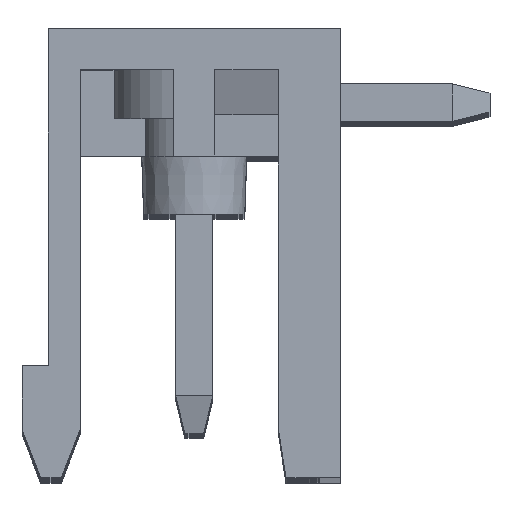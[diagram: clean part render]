
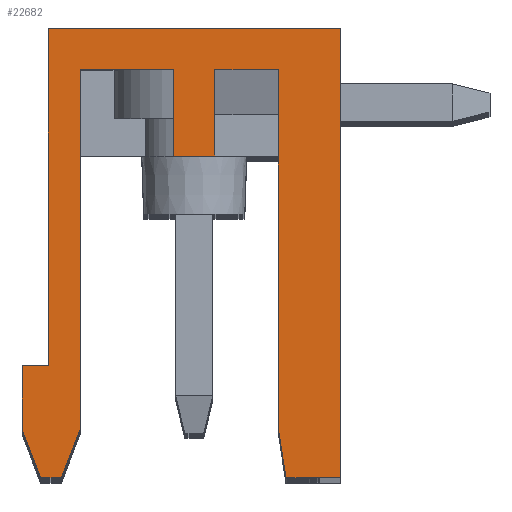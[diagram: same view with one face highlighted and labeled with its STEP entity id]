
A CAD part, top view. The second image highlights one B-rep face of the part: STEP entity #22682.
In plain terms, the highlighted planar face has unit normal (0, 0, 1).
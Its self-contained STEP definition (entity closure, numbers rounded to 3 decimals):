
#77 = LINE ( 'NONE', #12395, #8307 ) ;
#148 = EDGE_CURVE ( 'NONE', #35608, #31139, #856, .T. ) ;
#775 = VERTEX_POINT ( 'NONE', #6772 ) ;
#856 = LINE ( 'NONE', #26508, #36444 ) ;
#1350 = VECTOR ( 'NONE', #27389, 1000. ) ;
#1577 = LINE ( 'NONE', #13510, #23711 ) ;
#1651 = FACE_OUTER_BOUND ( 'NONE', #37159, .T. ) ;
#2034 = LINE ( 'NONE', #26680, #26311 ) ;
#2119 = EDGE_CURVE ( 'NONE', #24756, #9137, #14697, .T. ) ;
#2282 = CARTESIAN_POINT ( 'NONE',  ( -0.55, 8.6, 81.28 ) ) ;
#2451 = DIRECTION ( 'NONE',  ( 0., 0., 1. ) ) ;
#2737 = LINE ( 'NONE', #15059, #1350 ) ;
#2877 = EDGE_CURVE ( 'NONE', #12802, #9137, #2034, .T. ) ;
#3184 = EDGE_CURVE ( 'NONE', #23171, #775, #1577, .T. ) ;
#3368 = DIRECTION ( 'NONE',  ( 0., 1., 0. ) ) ;
#3726 = EDGE_CURVE ( 'NONE', #18675, #24756, #39411, .T. ) ;
#3988 = ORIENTED_EDGE ( 'NONE', *, *, #3726, .F. ) ;
#4072 = CARTESIAN_POINT ( 'NONE',  ( -0.55, 10.9, 81.28 ) ) ;
#4186 = LINE ( 'NONE', #16500, #13880 ) ;
#4317 = VECTOR ( 'NONE', #20206, 1000. ) ;
#4509 = ORIENTED_EDGE ( 'NONE', *, *, #38230, .T. ) ;
#4614 = LINE ( 'NONE', #25837, #26453 ) ;
#4673 = EDGE_CURVE ( 'NONE', #20531, #14646, #77, .T. ) ;
#4804 = DIRECTION ( 'NONE',  ( -0.359, -0.933, 0. ) ) ;
#5007 = VERTEX_POINT ( 'NONE', #15377 ) ;
#5052 = VECTOR ( 'NONE', #17960, 1000. ) ;
#5279 = PLANE ( 'NONE',  #7719 ) ;
#5416 = EDGE_CURVE ( 'NONE', #15812, #5007, #37127, .T. ) ;
#5900 = VECTOR ( 'NONE', #30828, 1000. ) ;
#6272 = VECTOR ( 'NONE', #28423, 1000. ) ;
#6558 = LINE ( 'NONE', #34256, #5900 ) ;
#6772 = CARTESIAN_POINT ( 'NONE',  ( 3.9, 0., 81.28 ) ) ;
#6934 = EDGE_CURVE ( 'NONE', #12802, #31139, #4614, .T. ) ;
#6957 = CARTESIAN_POINT ( 'NONE',  ( 3.9, 12., 81.28 ) ) ;
#7184 = CARTESIAN_POINT ( 'NONE',  ( -3.55, 0., 81.28 ) ) ;
#7719 = AXIS2_PLACEMENT_3D ( 'NONE', #23460, #2451, #17395 ) ;
#8307 = VECTOR ( 'NONE', #20894, 1000. ) ;
#8484 = CARTESIAN_POINT ( 'NONE',  ( 0.55, 8.6, 81.28 ) ) ;
#9003 = CARTESIAN_POINT ( 'NONE',  ( -3.05, 1.3, 81.28 ) ) ;
#9137 = VERTEX_POINT ( 'NONE', #7184 ) ;
#9228 = CARTESIAN_POINT ( 'NONE',  ( -4.6, 3., 81.28 ) ) ;
#9604 = VERTEX_POINT ( 'NONE', #2282 ) ;
#9745 = ORIENTED_EDGE ( 'NONE', *, *, #148, .T. ) ;
#10528 = ORIENTED_EDGE ( 'NONE', *, *, #23657, .T. ) ;
#10786 = VECTOR ( 'NONE', #22194, 1000. ) ;
#11344 = VECTOR ( 'NONE', #14851, 1000. ) ;
#11775 = EDGE_CURVE ( 'NONE', #35309, #9604, #6558, .T. ) ;
#11962 = VERTEX_POINT ( 'NONE', #6957 ) ;
#12395 = CARTESIAN_POINT ( 'NONE',  ( -3.9, 12., 81.28 ) ) ;
#12802 = VERTEX_POINT ( 'NONE', #29437 ) ;
#13510 = CARTESIAN_POINT ( 'NONE',  ( 2.45, 0., 81.28 ) ) ;
#13554 = CARTESIAN_POINT ( 'NONE',  ( -4.6, 1.3, 81.28 ) ) ;
#13880 = VECTOR ( 'NONE', #28845, 1000. ) ;
#13994 = VECTOR ( 'NONE', #4804, 1000. ) ;
#14646 = VERTEX_POINT ( 'NONE', #31194 ) ;
#14697 = LINE ( 'NONE', #23584, #13994 ) ;
#14851 = DIRECTION ( 'NONE',  ( -1., 0., 0. ) ) ;
#15059 = CARTESIAN_POINT ( 'NONE',  ( 2.25, 10.9, 81.28 ) ) ;
#15377 = CARTESIAN_POINT ( 'NONE',  ( 0.55, 10.9, 81.28 ) ) ;
#15812 = VERTEX_POINT ( 'NONE', #25877 ) ;
#16500 = CARTESIAN_POINT ( 'NONE',  ( 3.9, 0., 81.28 ) ) ;
#16877 = CARTESIAN_POINT ( 'NONE',  ( 2.25, 1.3, 81.28 ) ) ;
#17181 = LINE ( 'NONE', #8484, #4317 ) ;
#17208 = ORIENTED_EDGE ( 'NONE', *, *, #30090, .T. ) ;
#17395 = DIRECTION ( 'NONE',  ( 1., 0., 0. ) ) ;
#17767 = EDGE_CURVE ( 'NONE', #17796, #23171, #29424, .T. ) ;
#17796 = VERTEX_POINT ( 'NONE', #32069 ) ;
#17935 = EDGE_CURVE ( 'NONE', #14646, #35608, #27371, .T. ) ;
#17960 = DIRECTION ( 'NONE',  ( 0., -1., 0. ) ) ;
#18675 = VERTEX_POINT ( 'NONE', #36626 ) ;
#18942 = EDGE_CURVE ( 'NONE', #15812, #9604, #17181, .T. ) ;
#19630 = EDGE_CURVE ( 'NONE', #5007, #22729, #25387, .T. ) ;
#20206 = DIRECTION ( 'NONE',  ( -1., 0., 0. ) ) ;
#20353 = ORIENTED_EDGE ( 'NONE', *, *, #2877, .T. ) ;
#20413 = DIRECTION ( 'NONE',  ( 1., 0., 0. ) ) ;
#20531 = VERTEX_POINT ( 'NONE', #31075 ) ;
#20827 = CARTESIAN_POINT ( 'NONE',  ( 2.25, 10.9, 81.28 ) ) ;
#20894 = DIRECTION ( 'NONE',  ( 0., -1., 0. ) ) ;
#20988 = VECTOR ( 'NONE', #23148, 1000. ) ;
#21047 = ORIENTED_EDGE ( 'NONE', *, *, #2119, .F. ) ;
#22194 = DIRECTION ( 'NONE',  ( -1., 0., 0. ) ) ;
#22682 = ADVANCED_FACE ( 'NONE', ( #1651 ), #5279, .T. ) ;
#22729 = VERTEX_POINT ( 'NONE', #20827 ) ;
#23148 = DIRECTION ( 'NONE',  ( 0.152, -0.988, 0. ) ) ;
#23171 = VERTEX_POINT ( 'NONE', #30093 ) ;
#23460 = CARTESIAN_POINT ( 'NONE',  ( -10.2, 16.267, 81.28 ) ) ;
#23584 = CARTESIAN_POINT ( 'NONE',  ( -3.05, 1.3, 81.28 ) ) ;
#23634 = CARTESIAN_POINT ( 'NONE',  ( -3.05, 10.9, 81.28 ) ) ;
#23657 = EDGE_CURVE ( 'NONE', #22729, #17796, #2737, .T. ) ;
#23711 = VECTOR ( 'NONE', #38378, 1000. ) ;
#24756 = VERTEX_POINT ( 'NONE', #9003 ) ;
#25071 = VECTOR ( 'NONE', #3368, 1000. ) ;
#25270 = ORIENTED_EDGE ( 'NONE', *, *, #4673, .T. ) ;
#25387 = LINE ( 'NONE', #31468, #6272 ) ;
#25433 = CARTESIAN_POINT ( 'NONE',  ( -0.55, 10.9, 81.28 ) ) ;
#25837 = CARTESIAN_POINT ( 'NONE',  ( -4.1, 0., 81.28 ) ) ;
#25877 = CARTESIAN_POINT ( 'NONE',  ( 0.55, 8.6, 81.28 ) ) ;
#26311 = VECTOR ( 'NONE', #20413, 1000. ) ;
#26453 = VECTOR ( 'NONE', #31912, 1000. ) ;
#26508 = CARTESIAN_POINT ( 'NONE',  ( -4.6, 3., 81.28 ) ) ;
#26680 = CARTESIAN_POINT ( 'NONE',  ( -4.1, 0., 81.28 ) ) ;
#27262 = ORIENTED_EDGE ( 'NONE', *, *, #18942, .F. ) ;
#27371 = LINE ( 'NONE', #32865, #11344 ) ;
#27389 = DIRECTION ( 'NONE',  ( 0., -1., 0. ) ) ;
#28011 = LINE ( 'NONE', #34078, #37137 ) ;
#28246 = ORIENTED_EDGE ( 'NONE', *, *, #17935, .T. ) ;
#28423 = DIRECTION ( 'NONE',  ( 1., 0., 0. ) ) ;
#28845 = DIRECTION ( 'NONE',  ( 0., 1., 0. ) ) ;
#29424 = LINE ( 'NONE', #16877, #20988 ) ;
#29437 = CARTESIAN_POINT ( 'NONE',  ( -4.1, 0., 81.28 ) ) ;
#29946 = DIRECTION ( 'NONE',  ( 0., -1., 0. ) ) ;
#30090 = EDGE_CURVE ( 'NONE', #11962, #20531, #28011, .T. ) ;
#30093 = CARTESIAN_POINT ( 'NONE',  ( 2.45, 0., 81.28 ) ) ;
#30418 = ORIENTED_EDGE ( 'NONE', *, *, #3184, .T. ) ;
#30828 = DIRECTION ( 'NONE',  ( 0., -1., 0. ) ) ;
#31075 = CARTESIAN_POINT ( 'NONE',  ( -3.9, 12., 81.28 ) ) ;
#31139 = VERTEX_POINT ( 'NONE', #13554 ) ;
#31194 = CARTESIAN_POINT ( 'NONE',  ( -3.9, 3., 81.28 ) ) ;
#31468 = CARTESIAN_POINT ( 'NONE',  ( 0.55, 10.9, 81.28 ) ) ;
#31562 = ORIENTED_EDGE ( 'NONE', *, *, #19630, .T. ) ;
#31912 = DIRECTION ( 'NONE',  ( -0.359, 0.933, 0. ) ) ;
#32069 = CARTESIAN_POINT ( 'NONE',  ( 2.25, 1.3, 81.28 ) ) ;
#32112 = LINE ( 'NONE', #25433, #10786 ) ;
#32341 = ORIENTED_EDGE ( 'NONE', *, *, #17767, .T. ) ;
#32865 = CARTESIAN_POINT ( 'NONE',  ( -3.9, 3., 81.28 ) ) ;
#34078 = CARTESIAN_POINT ( 'NONE',  ( 3.9, 12., 81.28 ) ) ;
#34128 = EDGE_CURVE ( 'NONE', #35309, #18675, #32112, .T. ) ;
#34256 = CARTESIAN_POINT ( 'NONE',  ( -0.55, 10.9, 81.28 ) ) ;
#34286 = CARTESIAN_POINT ( 'NONE',  ( 0.55, 8.6, 81.28 ) ) ;
#34342 = ORIENTED_EDGE ( 'NONE', *, *, #11775, .T. ) ;
#34766 = ORIENTED_EDGE ( 'NONE', *, *, #34128, .F. ) ;
#35309 = VERTEX_POINT ( 'NONE', #4072 ) ;
#35608 = VERTEX_POINT ( 'NONE', #9228 ) ;
#35785 = ORIENTED_EDGE ( 'NONE', *, *, #5416, .T. ) ;
#36444 = VECTOR ( 'NONE', #29946, 1000. ) ;
#36626 = CARTESIAN_POINT ( 'NONE',  ( -3.05, 10.9, 81.28 ) ) ;
#36716 = DIRECTION ( 'NONE',  ( -1., 0., 0. ) ) ;
#37127 = LINE ( 'NONE', #34286, #25071 ) ;
#37137 = VECTOR ( 'NONE', #36716, 1000. ) ;
#37159 = EDGE_LOOP ( 'NONE', ( #4509, #17208, #25270, #28246, #9745, #37231, #20353, #21047, #3988, #34766, #34342, #27262, #35785, #31562, #10528, #32341, #30418 ) ) ;
#37231 = ORIENTED_EDGE ( 'NONE', *, *, #6934, .F. ) ;
#38230 = EDGE_CURVE ( 'NONE', #775, #11962, #4186, .T. ) ;
#38378 = DIRECTION ( 'NONE',  ( 1., 0., 0. ) ) ;
#39411 = LINE ( 'NONE', #23634, #5052 ) ;
